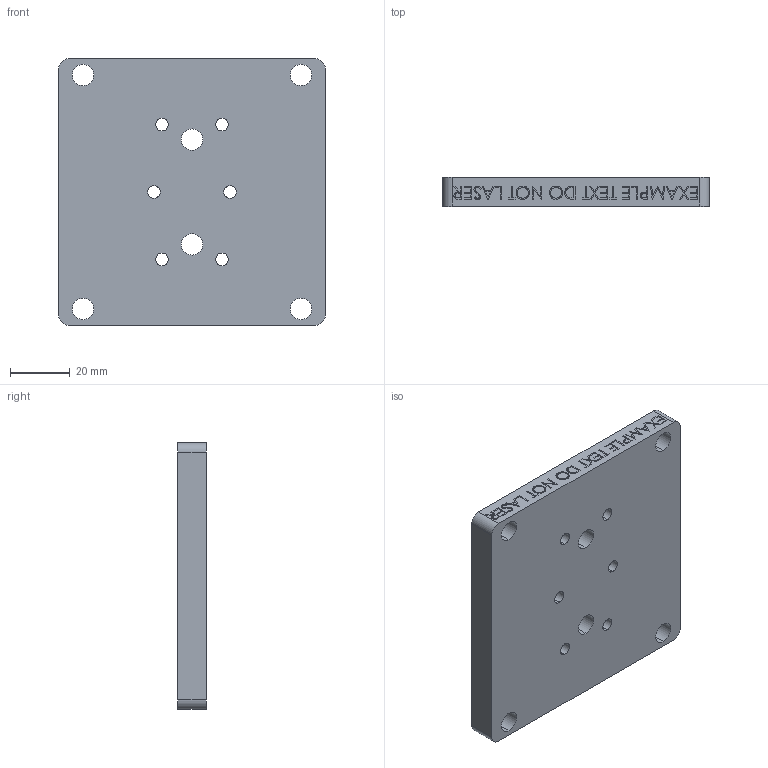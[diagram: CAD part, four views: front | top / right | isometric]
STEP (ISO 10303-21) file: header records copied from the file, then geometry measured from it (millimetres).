
FILE_DESCRIPTION (( 'STEP AP203' ), '1' );
FILE_NAME ('SLM-631-LEDRA70.STEP', '2018-09-13T12:32:59', ( '' ), ( '' ), 'SwSTEP 2.0', 'SolidWorks 2018', '' );
FILE_SCHEMA (( 'CONFIG_CONTROL_DESIGN' ));
Length unit declared in the file: inch
Products named in the file (1): SLM-631-LEDRA70
Bounding box: 88.9 x 9.53 x 88.9 mm (x, y, z)
Volume: 71693.2 mm3; surface area: 20455.7 mm2
Topology: 1 solids, 1 shells, 95 faces, 577 edges, 541 vertices
Faces by surface type: plane 63, cylinder 28, cone 4
Entity records: 7638 total; most frequent: CARTESIAN_POINT 2860, ORIENTED_EDGE 1154, DIRECTION 730, EDGE_CURVE 577, VERTEX_POINT 541, VECTOR 418, LINE 418, EDGE_LOOP 176
